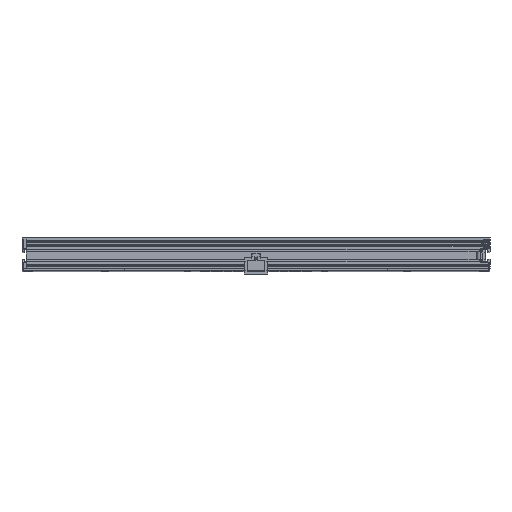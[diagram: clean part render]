
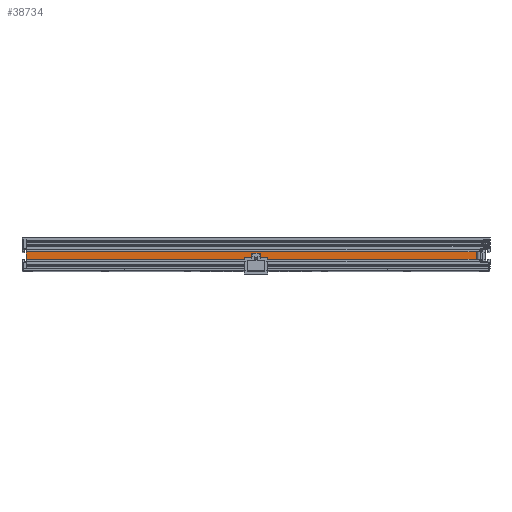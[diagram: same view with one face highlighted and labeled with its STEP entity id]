
A CAD part, top view. The second image highlights one B-rep face of the part: STEP entity #38734.
In plain terms, the highlighted planar face has unit normal (0, 0, 1).
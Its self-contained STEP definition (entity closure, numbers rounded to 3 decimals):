
#1004 = ORIENTED_EDGE ( 'NONE', *, *, #12524, .F. ) ;
#1012 = VERTEX_POINT ( 'NONE', #12041 ) ;
#2792 = ORIENTED_EDGE ( 'NONE', *, *, #31051, .T. ) ;
#3161 = DIRECTION ( 'NONE',  ( 0., 1., 0. ) ) ;
#3166 = CARTESIAN_POINT ( 'NONE',  ( -104.5, 5.35, 102. ) ) ;
#3729 = VECTOR ( 'NONE', #38585, 1000. ) ;
#4935 = EDGE_CURVE ( 'NONE', #1012, #24021, #33471, .T. ) ;
#6847 = CARTESIAN_POINT ( 'NONE',  ( -104.5, 1., 102. ) ) ;
#7226 = CARTESIAN_POINT ( 'NONE',  ( -106.5, 5.35, 102. ) ) ;
#7549 = VERTEX_POINT ( 'NONE', #20124 ) ;
#8790 = EDGE_CURVE ( 'NONE', #7549, #24021, #25277, .T. ) ;
#9121 = CARTESIAN_POINT ( 'NONE',  ( 100.5, 5.35, 102. ) ) ;
#12041 = CARTESIAN_POINT ( 'NONE',  ( -104.5, 8.65, 102. ) ) ;
#12383 = CARTESIAN_POINT ( 'NONE',  ( 100.5, 8.65, 102. ) ) ;
#12524 = EDGE_CURVE ( 'NONE', #26784, #1012, #34506, .T. ) ;
#14028 = LINE ( 'NONE', #24185, #37513 ) ;
#14118 = CARTESIAN_POINT ( 'NONE',  ( -106.5, 8.65, 102. ) ) ;
#15464 = EDGE_LOOP ( 'NONE', ( #2792, #27436, #22332, #1004 ) ) ;
#16621 = DIRECTION ( 'NONE',  ( 0., 0., -1. ) ) ;
#18439 = DIRECTION ( 'NONE',  ( 1., 0., 0. ) ) ;
#20124 = CARTESIAN_POINT ( 'NONE',  ( 100.5, 5.35, 102. ) ) ;
#22332 = ORIENTED_EDGE ( 'NONE', *, *, #4935, .F. ) ;
#22796 = DIRECTION ( 'NONE',  ( -1., 0., 0. ) ) ;
#23640 = AXIS2_PLACEMENT_3D ( 'NONE', #7226, #16621, #22796 ) ;
#24021 = VERTEX_POINT ( 'NONE', #12383 ) ;
#24185 = CARTESIAN_POINT ( 'NONE',  ( -106.5, 5.35, 102. ) ) ;
#25277 = LINE ( 'NONE', #9121, #33879 ) ;
#26784 = VERTEX_POINT ( 'NONE', #3166 ) ;
#27436 = ORIENTED_EDGE ( 'NONE', *, *, #8790, .T. ) ;
#29923 = FACE_OUTER_BOUND ( 'NONE', #15464, .T. ) ;
#31051 = EDGE_CURVE ( 'NONE', #26784, #7549, #14028, .T. ) ;
#32123 = VECTOR ( 'NONE', #34441, 1000. ) ;
#33471 = LINE ( 'NONE', #14118, #3729 ) ;
#33879 = VECTOR ( 'NONE', #3161, 1000. ) ;
#34441 = DIRECTION ( 'NONE',  ( 0., 1., 0. ) ) ;
#34506 = LINE ( 'NONE', #6847, #32123 ) ;
#37513 = VECTOR ( 'NONE', #18439, 1000. ) ;
#37776 = PLANE ( 'NONE',  #23640 ) ;
#38585 = DIRECTION ( 'NONE',  ( 1., 0., 0. ) ) ;
#38734 = ADVANCED_FACE ( 'NONE', ( #29923 ), #37776, .F. ) ;
